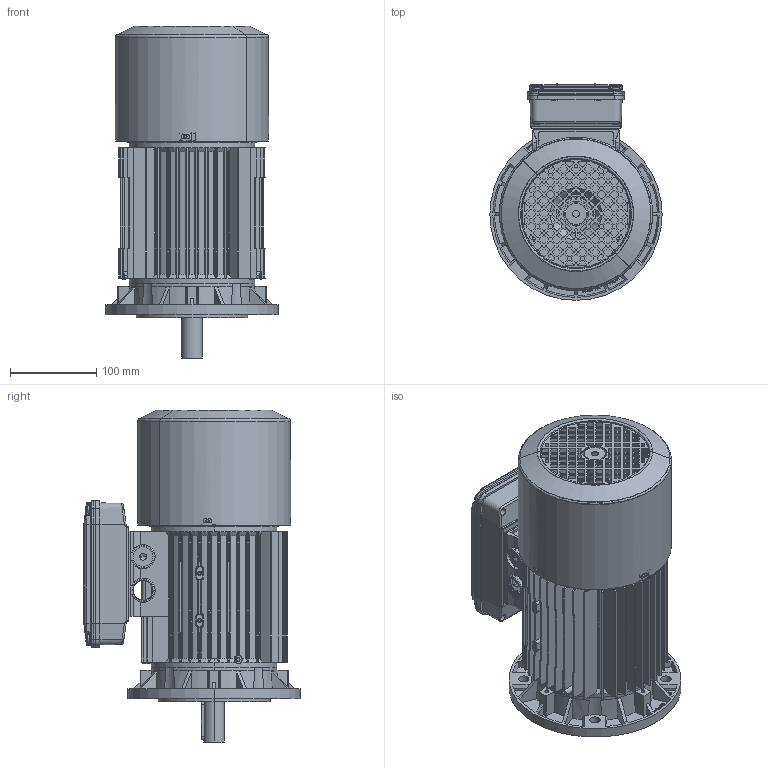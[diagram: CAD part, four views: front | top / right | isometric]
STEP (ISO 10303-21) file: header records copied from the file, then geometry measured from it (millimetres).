
FILE_DESCRIPTION (( 'STEP AP214' ), '1' );
FILE_NAME ('M14FB0013.STEP', '2019-09-13T15:32:12', ( '' ), ( '' ), 'SwSTEP 2.0', 'SolidWorks 2018', '' );
FILE_SCHEMA (( 'AUTOMOTIVE_DESIGN' ));
Length unit declared in the file: millimetre
Products named in the file (13): Guarnizione Doppia Scatola Gr. 90 100 112 - DDAM0094; Vite  a testa bombata M4x16; Coperchio per Scatola per Morsettiera Doppia 90-100-112; Scatola per Morsettiera Doppia 90-100-112; Chiavetta 90; Albero BM 90 L; Cuffia BM 90- DDAS0197; Scudo Lato Freno BM 90 P1; Scudo a flangia B5 Fi 200 BA-BM 90 - DDAA00195; Carcassa 90 L B5; M14FB0013; Scatola per Morsettiera Doppia 90-100-112 - Completa; Guarnizione Coperchio Semplice Scatola BA 90 100 112 - DDAL0094
Assembly tree (15 placements, depth 3):
  M14FB0013
    Carcassa 90 L B5
    Scudo a flangia B5 Fi 200 BA-BM 90 - DDAA00195
    Scudo Lato Freno BM 90 P1
    Cuffia BM 90- DDAS0197
    Albero BM 90 L
    Chiavetta 90
    Scatola per Morsettiera Doppia 90-100-112 - Completa
      Scatola per Morsettiera Doppia 90-100-112
      Coperchio per Scatola per Morsettiera Doppia 90-100-112
      Vite  a testa bombata M4x16  x4
      Guarnizione Doppia Scatola Gr. 90 100 112 - DDAM0094
      Guarnizione Coperchio Semplice Scatola BA 90 100 112 - DDAL0094
Bounding box: 200 x 251.3 x 385.5 mm (x, y, z)
Volume: 1510801.6 mm3; surface area: 883536.3 mm2
Topology: 14 solids, 14 shells, 3551 faces, 9675 edges, 6171 vertices
Faces by surface type: cylinder 1428, plane 1360, torus 333, cone 239, bspline 173, sphere 18
Entity records: 125399 total; most frequent: CARTESIAN_POINT 39175, ORIENTED_EDGE 18438, DIRECTION 17148, EDGE_CURVE 9219, AXIS2_PLACEMENT_3D 6273, VERTEX_POINT 5943, LINE 4602, VECTOR 4602
